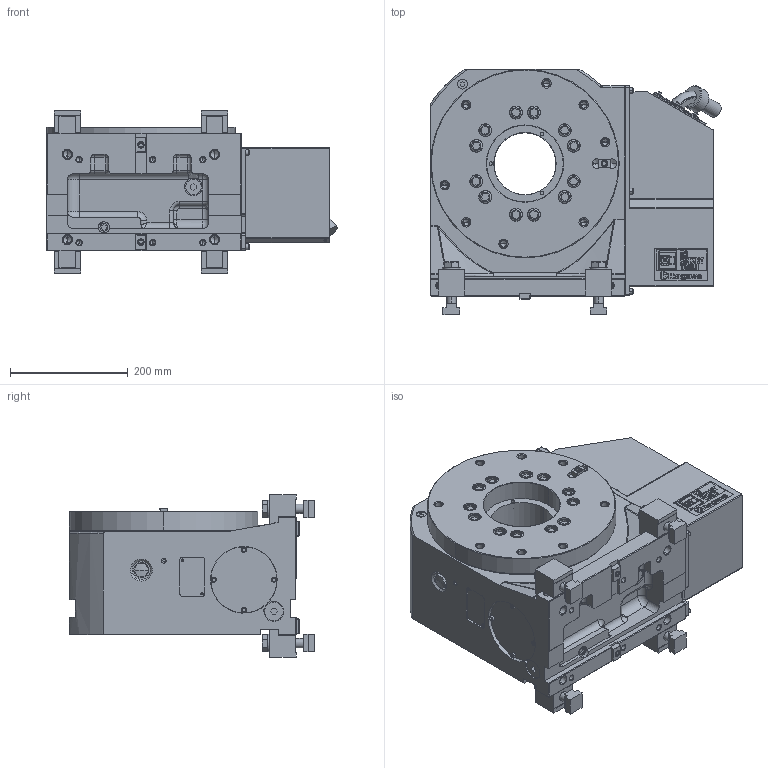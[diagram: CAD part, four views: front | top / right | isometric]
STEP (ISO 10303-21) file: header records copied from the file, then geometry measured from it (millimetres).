
FILE_DESCRIPTION (( 'STEP AP214' ), '1' );
FILE_NAME ('GT320RAV.STEP', '2019-12-10T04:47:34', ( '' ), ( '' ), 'SwSTEP 2.0', 'SolidWorks 2017', '' );
FILE_SCHEMA (( 'AUTOMOTIVE_DESIGN' ));
Length unit declared in the file: millimetre
Products named in the file (10): クランプクミタテ（61E4665080）GT320D1; GT320RAV00儂儞僞僀; 働乕僽儖N29ZSZ2562; キタガワシール; モータケース（61E2713420）GT320RAV00; ガイドブロック(61M4197783); GT320RA00僋儈僞僥(61E500399); テーブル（61E8055880）GT320RA00; 儂儞僞僀ASSY(61E1127891)GT320RA00; GT320RAV
Assembly tree (13 placements, depth 4):
  GT320RAV
    GT320RAV00儂儞僞僀
      GT320RA00僋儈僞僥(61E500399)
        儂儞僞僀ASSY(61E1127891)GT320RA00
        テーブル（61E8055880）GT320RA00
      ガイドブロック(61M4197783)  x2
      モータケース（61E2713420）GT320RAV00
      キタガワシール
      働乕僽儖N29ZSZ2562
    クランプクミタテ（61E4665080）GT320D1  x4
Bounding box: 493.34 x 416 x 276 mm (x, y, z)
Volume: 28979975.7 mm3; surface area: 1295081.1 mm2
Topology: 11 solids, 11 shells, 3290 faces, 8529 edges, 5493 vertices
Faces by surface type: plane 2300, cylinder 624, cone 266, torus 41, sphere 34, bspline 25
Entity records: 109139 total; most frequent: CARTESIAN_POINT 18264, ORIENTED_EDGE 16130, DIRECTION 15741, EDGE_CURVE 8065, VECTOR 6469, LINE 6469, VERTEX_POINT 5265, AXIS2_PLACEMENT_3D 4636
